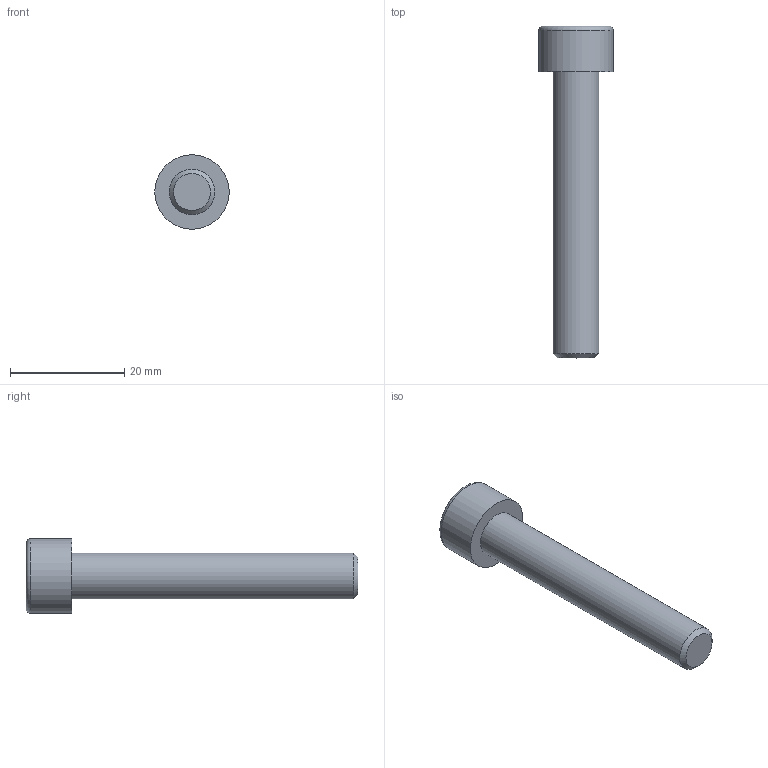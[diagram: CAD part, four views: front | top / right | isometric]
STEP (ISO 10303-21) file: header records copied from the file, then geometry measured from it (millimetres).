
FILE_DESCRIPTION(/* description */ (''),/* implementation_level */ '2;1');
FILE_NAME(/* name */ 'C:\Users\D\Documents\Inventor\各種小物\JIS\JIS B 1176 六角穴付きボルト\M8x50.stp',/* time_stamp */ '2022-05-09T18:52:27+09:00',/* author */ ('D'),/* organization */ (''),/* preprocessor_version */ 'ST-DEVELOPER v18',/* originating_system */ 'Autodesk Inventor 2020',/* authorisation */ '');
FILE_SCHEMA (('AUTOMOTIVE_DESIGN { 1 0 10303 214 3 1 1 }'));
Length unit declared in the file: millimetre
Products named in the file (1): M1.6x2.5
Bounding box: 13 x 58 x 13 mm (x, y, z)
Volume: 3413.6 mm3; surface area: 1914 mm2
Topology: 1 solids, 1 shells, 14 faces, 33 edges, 22 vertices
Faces by surface type: plane 9, cone 2, cylinder 2, torus 1
Full cylindrical faces by diameter (mm): 8 x1, 13 x1
Entity records: 435 total; most frequent: CARTESIAN_POINT 83, ORIENTED_EDGE 64, DIRECTION 64, EDGE_CURVE 32, AXIS2_PLACEMENT_3D 24, VERTEX_POINT 22, EDGE_LOOP 16, LINE 16
